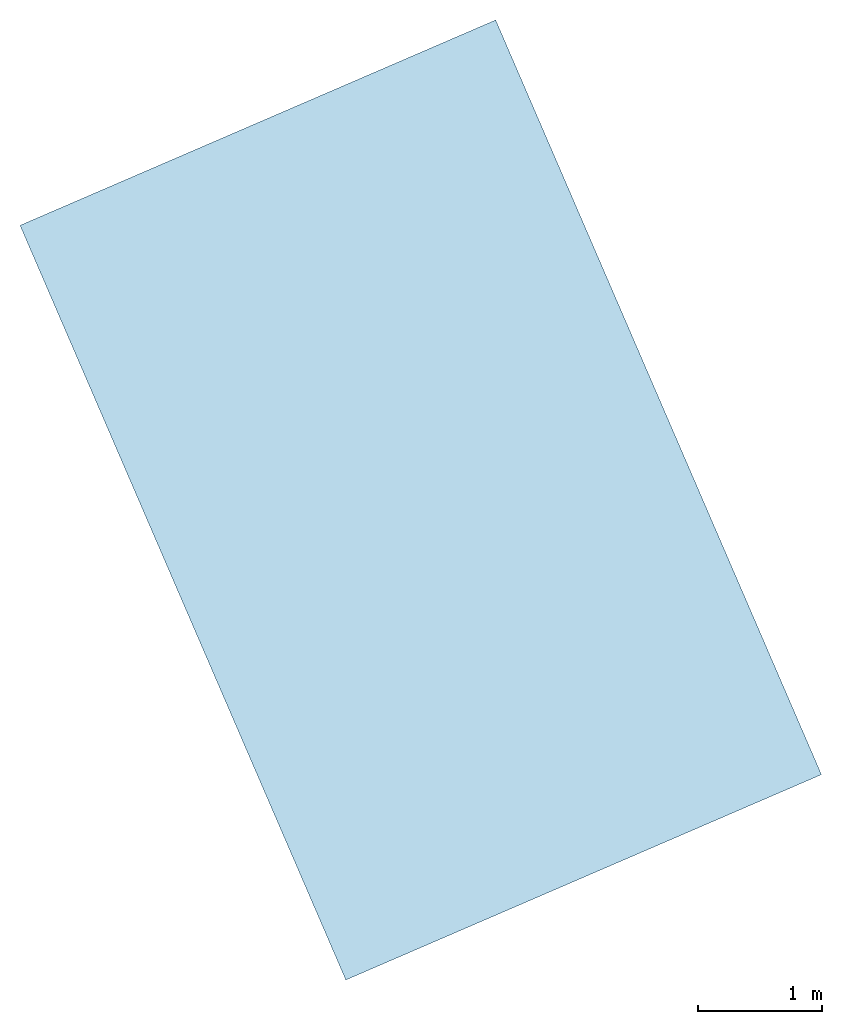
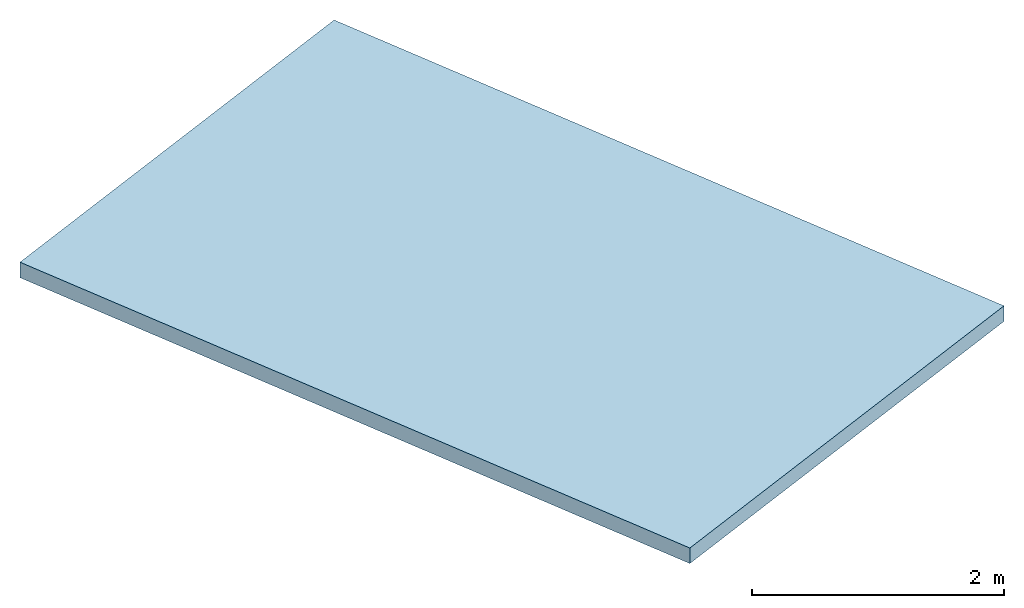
# One storey: 1 slab.
"""IFC4 building model written with IfcOpenShell, lengths in metres."""

import ifcopenshell
import ifcopenshell.guid

model = None  # the IFC model being written
_history = None  # IfcOwnerHistory: only IFC2X3 demands one
_inside = {}  # id of a spatial element -> (the spatial element, [elements in it])
_under = {}  # id of a project, library or spatial element -> (it, [spatial elements below it])
_declared = {}  # id of a project -> (the project, [libraries it declares])
_typed = {}  # id of a type object -> (the type object, [elements of that type])
_made_of = {}  # id of a material, layer set ... -> (it, [elements and type objects made of it])


def new_model(schema):
    """Start an empty IFC model of exactly this schema.

    Asked for "IFC4X3", IfcOpenShell would pick the latest addendum, in which some entities
    have other attributes; the version numbers below select the first issue.
    IFC2X3 requires an IfcOwnerHistory on every rooted entity: one is made here for all.
    """
    global model, _history
    if schema == "IFC4X3":
        model = ifcopenshell.file(schema_version=(4, 3, 0, 0))
    else:
        model = ifcopenshell.file(schema=schema)
    _inside.clear()
    _under.clear()
    _declared.clear()
    _typed.clear()
    _made_of.clear()
    _history = None
    if model.schema == "IFC2X3":
        org = make("IfcOrganization", Name="unknown")
        user = make(
            "IfcPersonAndOrganization",
            ThePerson=make("IfcPerson", FamilyName="unknown"),
            TheOrganization=org,
        )
        app = make(
            "IfcApplication",
            ApplicationDeveloper=org,
            Version="unknown",
            ApplicationFullName="unknown",
            ApplicationIdentifier="unknown",
        )
        _history = make(
            "IfcOwnerHistory",
            OwningUser=user,
            OwningApplication=app,
            ChangeAction="ADDED",
            CreationDate=0,
        )
    return model


def make(cls, **values):
    """One entity of the class cls with the attributes given. An attribute that is None is left unset."""
    return model.create_entity(
        cls, **{name: value for name, value in values.items() if value is not None}
    )


def entity(cls, *values):
    """Any entity or typed value of the class cls, its attributes in the order of the schema. None: left unset."""
    e = model.create_entity(cls)
    for i, value in enumerate(values):
        if value is not None:
            e[i] = value
    return e


def rooted(cls, **values):
    """An entity with a GlobalId (a new one), such as an element, a storey or a relation."""
    return make(cls, GlobalId=ifcopenshell.guid.new(), OwnerHistory=_history, **values)


def si_unit(unit_type, name, prefix=None):
    """IfcSIUnit, for example si_unit("LENGTHUNIT", "METRE", prefix="MILLI")."""
    return make("IfcSIUnit", UnitType=unit_type, Prefix=prefix, Name=name)


def converted_unit(unit_type, name, factor, base, dimensions=None, offset=None):
    """IfcConversionBasedUnit, such as the inch: factor (a typed value) times the base unit."""
    return make(
        "IfcConversionBasedUnit"
        if offset is None
        else "IfcConversionBasedUnitWithOffset",
        ConversionOffset=offset,
        Dimensions=None
        if dimensions is None
        else entity("IfcDimensionalExponents", *dimensions),
        UnitType=unit_type,
        Name=name,
        ConversionFactor=make(
            "IfcMeasureWithUnit", ValueComponent=factor, UnitComponent=base
        ),
    )


def derived_unit(unit_type, elements):
    """IfcDerivedUnit: a product of units, each with its exponent."""
    return make(
        "IfcDerivedUnit",
        Elements=[
            make("IfcDerivedUnitElement", Unit=unit, Exponent=power)
            for unit, power in elements
        ],
        UnitType=unit_type,
    )


def assignment(units):
    """IfcUnitAssignment: the units of a project."""
    return None if units is None else make("IfcUnitAssignment", Units=units)


def point(xyz):
    """IfcCartesianPoint."""
    return None if xyz is None else make("IfcCartesianPoint", Coordinates=xyz)


def direction(xyz):
    """IfcDirection."""
    return None if xyz is None else make("IfcDirection", DirectionRatios=xyz)


def frame(location, z_axis=None, x_axis=None):
    """IfcAxis2Placement3D, a coordinate frame: its origin and axes. An axis left out is left unset."""
    return make(
        "IfcAxis2Placement3D",
        Location=point(location),
        Axis=direction(z_axis),
        RefDirection=direction(x_axis),
    )


def origin():
    """The frame at (0, 0, 0) with its axes left unset."""
    return frame((0.0, 0.0, 0.0))


def place(relative_to, where):
    """IfcLocalPlacement: puts the frame where relative to a parent placement (None: the world)."""
    return make(
        "IfcLocalPlacement", PlacementRelTo=relative_to, RelativePlacement=where
    )


def context(
    kind, dimensions, precision=None, world=None, true_north=None, identifier=None
):
    """IfcGeometricRepresentationContext, for example the 3D "Model" context."""
    return make(
        "IfcGeometricRepresentationContext",
        ContextIdentifier=identifier,
        ContextType=kind,
        CoordinateSpaceDimension=dimensions,
        Precision=precision,
        WorldCoordinateSystem=world,
        TrueNorth=true_north,
    )


def subcontext(parent, identifier, kind, view, scale=None):
    """IfcGeometricRepresentationSubContext, for example "Body" below "Model"."""
    return make(
        "IfcGeometricRepresentationSubContext",
        ContextIdentifier=identifier,
        ContextType=kind,
        ParentContext=parent,
        TargetScale=scale,
        TargetView=view,
    )


def project(units=None, contexts=None):
    """IfcProject with its units and contexts."""
    return rooted(
        "IfcProject",
        Name="project",
        RepresentationContexts=contexts,
        UnitsInContext=assignment(units),
    )


def spatial(cls, under=None, at=None, **own):
    """A site, building, storey or space (cls), placed at a placement, below another one or the project."""
    s = rooted(cls, ObjectPlacement=at, **own)
    if under is not None:
        _under.setdefault(under.id(), (under, []))[1].append(s)
    return s


def point_list(points):
    """IfcCartesianPointList2D or 3D."""
    cls = (
        "IfcCartesianPointList2D" if len(points[0]) == 2 else "IfcCartesianPointList3D"
    )
    return make(cls, CoordList=points)


def indexed_curve(points, segments=None, self_intersect=None):
    """IfcIndexedPolyCurve: lines and arcs through numbered points (the first is 1)."""
    return make(
        "IfcIndexedPolyCurve",
        Points=point_list(points),
        Segments=segments,
        SelfIntersect=self_intersect,
    )


def outline(outer, holes=None, kind="AREA"):
    """IfcArbitraryClosedProfileDef: a profile drawn as a closed curve; with holes, ...WithVoids."""
    if holes is None:
        return make("IfcArbitraryClosedProfileDef", ProfileType=kind, OuterCurve=outer)
    return make(
        "IfcArbitraryProfileDefWithVoids",
        ProfileType=kind,
        OuterCurve=outer,
        InnerCurves=holes,
    )


def extrude(swept, where, along, depth):
    """IfcExtrudedAreaSolid: the profile swept, set in the frame where, extruded along a direction by depth."""
    return make(
        "IfcExtrudedAreaSolid",
        SweptArea=swept,
        Position=where,
        ExtrudedDirection=direction(along),
        Depth=depth,
    )


def shape(context_of_items, identifier, shape_type, items):
    """IfcShapeRepresentation: the items that make up one representation, for example the "Body"."""
    return make(
        "IfcShapeRepresentation",
        ContextOfItems=context_of_items,
        RepresentationIdentifier=identifier,
        RepresentationType=shape_type,
        Items=items,
    )


def material(Name=None, Category=None):
    """IfcMaterial."""
    return make("IfcMaterial", Name=Name, Category=Category)


def made_of(thing, what):
    """Note that an element or type object is made of a material, layer set ...; save() writes the relation."""
    if what is not None:
        _made_of.setdefault(what.id(), (what, []))[1].append(thing)
    return thing


def type_object(cls, material=None, **own):
    """A type object (cls), such as IfcWallType, which elements share."""
    return made_of(rooted(cls, **own), material)


def element(
    cls,
    number,
    at=None,
    inside=None,
    cuts=None,
    type_object=None,
    material=None,
    context=None,
    identifier="Body",
    shape_type=None,
    held_by="IfcProductDefinitionShape",
    body=None,
    shapes=None,
    **own,
):
    """One element of the class cls, such as IfcWall. Its Tag is "e" and its number.

    at: its placement. inside: the storey or other place that contains it. cuts: it is an
    opening in that element (IfcRelVoidsElement). A single representation is given by context,
    identifier, shape_type and body (its items); several are given by shapes. held_by: the class
    of the entity that holds the representations. save() writes the other relations.
    """
    e = rooted(cls, Tag="e%d" % number, ObjectPlacement=at, **own)
    if body is not None:
        shapes = [shape(context, identifier, shape_type, body)]
    if shapes is not None:
        e.Representation = make(held_by, Representations=shapes)
    if inside is not None:
        _inside.setdefault(inside.id(), (inside, []))[1].append(e)
    if cuts is not None:
        rooted(
            "IfcRelVoidsElement", RelatingBuildingElement=cuts, RelatedOpeningElement=e
        )
    if type_object is not None:
        _typed.setdefault(type_object.id(), (type_object, []))[1].append(e)
    return made_of(e, material)


def aggregate(whole, parts):
    """IfcRelAggregates: a whole, such as a stair, and the parts it consists of."""
    return rooted("IfcRelAggregates", RelatingObject=whole, RelatedObjects=parts)


def save(model, path):
    """Write the relations noted so far, then the file.

    IfcRelAggregates (storeys below a building ...), IfcRelContainedInSpatialStructure (elements
    in a storey), IfcRelDefinesByType, IfcRelAssociatesMaterial and IfcRelDeclares: one each for
    every whole, place, type object, material and project.
    """
    for whole, parts in _under.values():
        aggregate(whole, parts)
    for where, things in _inside.values():
        rooted(
            "IfcRelContainedInSpatialStructure",
            RelatedElements=things,
            RelatingStructure=where,
        )
    for kind, things in _typed.values():
        rooted("IfcRelDefinesByType", RelatedObjects=things, RelatingType=kind)
    for what, things in _made_of.values():
        rooted("IfcRelAssociatesMaterial", RelatedObjects=things, RelatingMaterial=what)
    for by, libraries in _declared.values():
        rooted("IfcRelDeclares", RelatingContext=by, RelatedDefinitions=libraries)
    model.write(path)


model = new_model("IFC4")

# Units and contexts
model_context = context("Model", 3, precision=1e-05, world=origin(), true_north=direction((6.123233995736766e-17, 1.0)))
body_context = subcontext(model_context, "Body", "Model", "MODEL_VIEW")
ifc_project = project(units=[si_unit("LENGTHUNIT", "METRE"), si_unit("AREAUNIT", "SQUARE_METRE"), si_unit("VOLUMEUNIT", "CUBIC_METRE"), converted_unit("PLANEANGLEUNIT", "DEGREE", entity("IfcPlaneAngleMeasure", 0.017453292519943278), si_unit("PLANEANGLEUNIT", "RADIAN"), dimensions=[0, 0, 0, 0, 0, 0, 0]), derived_unit("THERMALTRANSMITTANCEUNIT", [(si_unit("MASSUNIT", "GRAM", prefix="KILO"), 1), (si_unit("THERMODYNAMICTEMPERATUREUNIT", "KELVIN"), -1), (si_unit("TIMEUNIT", "SECOND"), -3)]), derived_unit("USERDEFINED", [(si_unit("MASSUNIT", "GRAM", prefix="KILO"), 1), (si_unit("THERMODYNAMICTEMPERATUREUNIT", "KELVIN"), -1), (si_unit("TIMEUNIT", "SECOND"), -2)]), derived_unit("THERMALRESISTANCEUNIT", [(si_unit("MASSUNIT", "GRAM", prefix="KILO"), -1), (si_unit("TIMEUNIT", "SECOND"), 3), (si_unit("THERMODYNAMICTEMPERATUREUNIT", "KELVIN"), 1)]), si_unit("MASSUNIT", "GRAM", prefix="KILO"), derived_unit("MOMENTOFINERTIAUNIT", [(si_unit("LENGTHUNIT", "METRE"), 4)]), derived_unit("LINEARFORCEUNIT", [(si_unit("MASSUNIT", "GRAM", prefix="KILO"), 1), (si_unit("TIMEUNIT", "SECOND"), -2)]), derived_unit("WARPINGCONSTANTUNIT", [(si_unit("LENGTHUNIT", "METRE"), 6)])], contexts=[model_context])

# Site, building, storey
site_placement = place(None, origin())
site = spatial("IfcSite", under=ifc_project, at=site_placement, Name="Default", CompositionType="ELEMENT")
building_placement = place(site_placement, frame((-21.752541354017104, -73.50235179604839, 317.2999999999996), z_axis=(0.0, 0.0, 1.0), x_axis=(-0.39637753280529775, 0.918087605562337, 0.0)))
building = spatial("IfcBuilding", under=site, at=building_placement, Name="CESFAM Coyhaique", CompositionType="ELEMENT")
storey_placement = place(building_placement, frame((0.0, 0.0, 1.0999988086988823)))
storey = spatial("IfcBuildingStorey", under=building, at=storey_placement, Name="Nivel 2", CompositionType="ELEMENT", Elevation=1.0999988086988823)

# Slab
ifc_material = material(Name="HA")
slab_type = type_object("IfcSlabType", Name="Floor:LosaHA - 150mm", PredefinedType="FLOOR", material=ifc_material)
slab_placement = place(storey_placement, origin())
element("IfcSlab", 1, at=slab_placement, inside=storey, type_object=slab_type, material=ifc_material, Name="Floor:LosaHA - 150mm", ObjectType="Floor:LosaHA - 150mm", PredefinedType="FLOOR", context=body_context, shape_type="SweptSolid", body=[
    extrude(outline(indexed_curve([(-2.0874998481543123, -3.3116715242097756), (2.0874998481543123, -3.3116715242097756), (2.0874998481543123, 3.3116715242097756), (-2.087499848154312, 3.3116715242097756), (-2.0874998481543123, -3.3116715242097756)], self_intersect=False)), frame((-16.021778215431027, 3.8307582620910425, 0.0), z_axis=(0.0, 0.0, -1.0), x_axis=(0.0, 1.0, 0.0)), (0.0, 0.0, 1.0), 0.15000000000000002),
])

save(model, "model.ifc")
